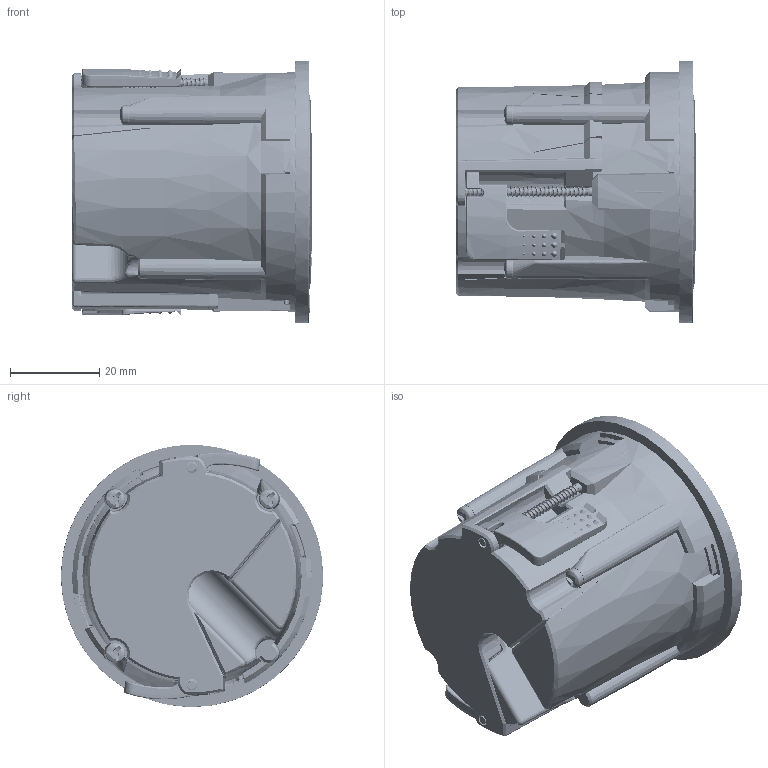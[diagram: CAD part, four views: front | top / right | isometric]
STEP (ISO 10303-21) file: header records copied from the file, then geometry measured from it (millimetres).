
FILE_DESCRIPTION (( 'STEP AP214' ), '1' );
FILE_NAME ('EVOline ONE Kunststoffring Charger A+C.STEP', '2023-01-04T13:12:54', ( '' ), ( '' ), 'SwSTEP 2.0', 'SolidWorks 2020', '' );
FILE_SCHEMA (( 'AUTOMOTIVE_DESIGN' ));
Products named in the file (1): EVOline ONE Kunststoffring Charger A+C
Bounding box: 53.9 x 58.82 x 58.81 mm (x, y, z)
Volume: 65516.2 mm3; surface area: 49590.6 mm2
Topology: 1 solids, 5 shells, 4267 faces, 12499 edges, 8243 vertices
Faces by surface type: plane 1822, bspline 1212, cylinder 584, cone 334, sphere 169, torus 146
Full cylindrical faces by diameter (mm): 0.597 x6, 0.65 x2, 1.1 x3, 1.5 x12, 1.778 x1, 1.952 x3, 1.98 x2, 2.007 x2, 4.4 x5, 6 x2, 39 x1
Entity records: 404738 total; most frequent: CARTESIAN_POINT 306941, ORIENTED_EDGE 24460, DIRECTION 15287, EDGE_CURVE 12230, VERTEX_POINT 8137, AXIS2_PLACEMENT_3D 5270, LINE 4747, VECTOR 4747
